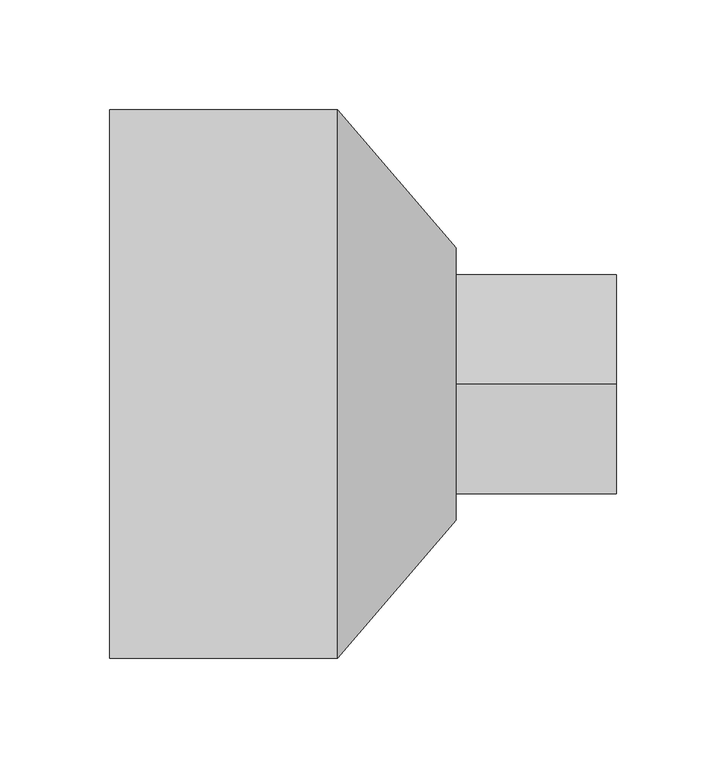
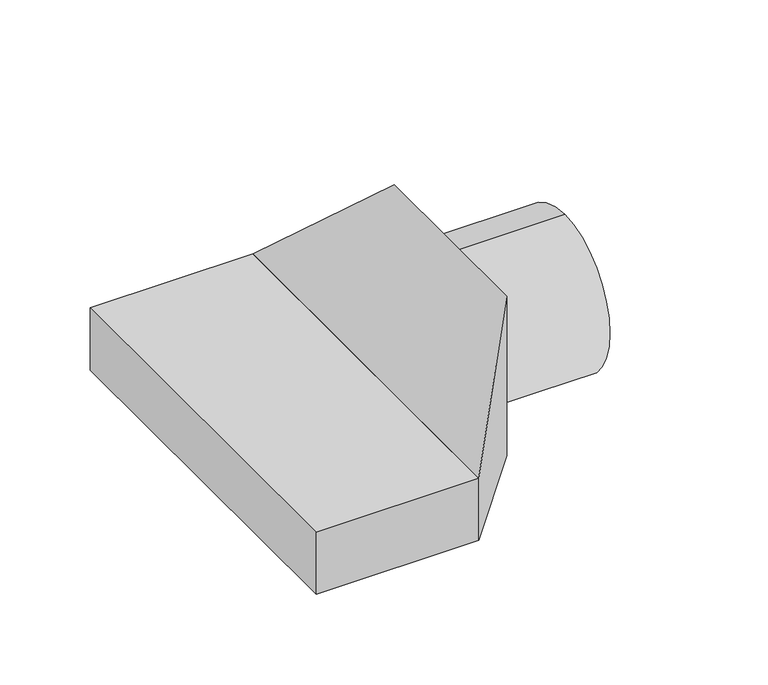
"""IFC4 building model written with IfcOpenShell, lengths in millimetres: sanitary terminal geometry, PF_WPB_Attica connection_ACO : Attica connection."""

from ifc_helpers import new_model, si_unit, frame, origin, origin_with_axes, place, context, project, spatial, polyline, circle_curve, outline, extrude, faceted_brep, source, transform, mapped, element, save
from ifc_brep_helpers import plane_surface, cylinder_surface, advanced_brep


def sanitary_terminal_a0aa38cc(model_context):
    return source(origin(), model_context, "Body", "SolidModel", [
        advanced_brep(
        [(158.0, 0.0, 100.0), (158.0, 0.0, 0.0), (158.0, 0.0, 50.0), (231.0, 0.0, 100.0), (231.0, 0.0, 0.0), (231.0, 0.0, 50.0)],
        [
            (0, 1, circle_curve(frame((158.0, 0.0, 50.0), z_axis=(-1.0, 0.0, 0.0), x_axis=(0.0, 0.0, -1.0)), 50.0)),
            (1, 2),
            (2, 0),
            (1, 0, circle_curve(frame((158.0, 0.0, 50.0), z_axis=(-1.0, 0.0, 0.0), x_axis=(0.0, 0.0, -1.0)), 50.0)),
            (3, 4, circle_curve(frame((231.0, 0.0, 50.0), z_axis=(-1.0, 0.0, 0.0), x_axis=(0.0, 0.0, -1.0)), 50.0)),
            (4, 1),
            (0, 3),
            (4, 3, circle_curve(frame((231.0, 0.0, 50.0), z_axis=(-1.0, 0.0, 0.0), x_axis=(0.0, 0.0, -1.0)), 50.0)),
            (5, 4),
            (3, 5),
        ],
        [
            plane_surface(frame((158.0, 0.0, 50.0), z_axis=(-1.0, 0.0, 0.0), x_axis=(0.0, 0.0, -1.0))),
            cylinder_surface(frame((242.7623922, 0.0, 50.0), z_axis=(1.0, 0.0, 0.0), x_axis=(0.0, 0.0, -1.0)), 50.0),
            plane_surface(frame((231.0, 0.0, 50.0), z_axis=(1.0, 0.0, 0.0), x_axis=(0.0, 0.0, -1.0))),
        ],
        [
            (0, [[1, 2, 3]]),
            (0, [[4, -3, -2]]),
            (1, [[5, 6, -1, 7]]),
            (1, [[8, -7, -4, -6]]),
            (2, [[9, -5, 10]]),
            (2, [[-10, -8, -9]]),
        ],
    ),
        faceted_brep([(104.0, 125.0, 42.0796669), (104.0, -125.0, 42.0796669), (158.0, -62.0, 108.0796669), (158.0, 62.0, 108.0796669), (104.0, 125.0, 0.0), (104.0, -125.0, 0.0), (158.0, 62.0, 0.0), (158.0, -62.0, 0.0)], [[[0, 1, 2, 3]], [[1, 0, 4, 5]], [[5, 4, 6, 7]], [[3, 2, 7, 6]], [[2, 1, 5, 7]], [[0, 3, 6, 4]]]),
        extrude(outline(polyline([(104.0, -125.0), (0.0, -125.0), (0.0, 125.0), (104.0, 125.0), (104.0, -125.0)])), origin_with_axes(), (0.0, 0.0, 1.0), 42.0),
    ])


if __name__ == "__main__":
    model = new_model("IFC4")
    model_context = context("Model", 3, world=origin())
    ifc_project = project(units=[si_unit("LENGTHUNIT", "METRE", prefix="MILLI")], contexts=[model_context])
    site = spatial("IfcSite", under=ifc_project)
    building = spatial("IfcBuilding", under=site)
    placement = place(None, origin())
    sanitary_terminal_shape = sanitary_terminal_a0aa38cc(model_context)
    element("IfcSanitaryTerminal", 1, ObjectType="PF_WPB_Attica connection_ACO : Attica connection", at=placement, inside=building, context=model_context, shape_type="MappedRepresentation", body=[
        mapped(sanitary_terminal_shape, transform((0.0, 0.0, 0.0), x_axis=(1.0, 0.0, 0.0), y_axis=(0.0, 1.0, 0.0), z_axis=(0.0, 0.0, 1.0))),
    ])
    save(model, "model.ifc")
